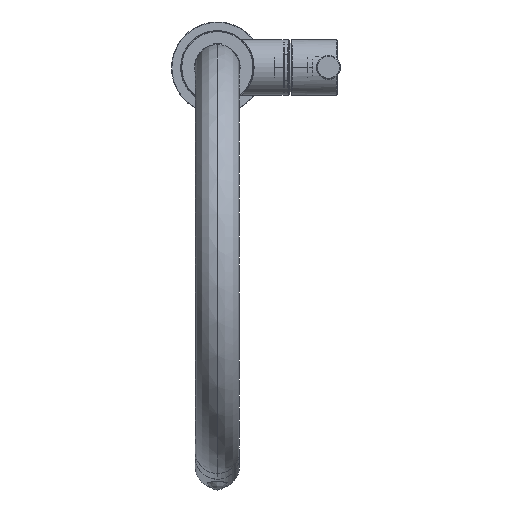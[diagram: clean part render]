
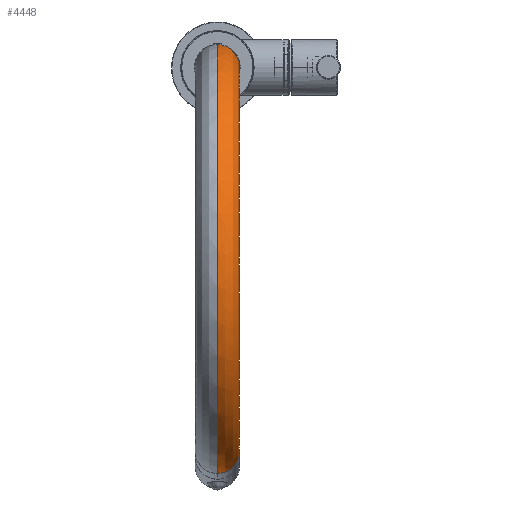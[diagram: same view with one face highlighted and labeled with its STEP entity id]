
A CAD part, top view. The second image highlights one B-rep face of the part: STEP entity #4448.
In plain terms, the highlighted free-form (B-spline) face has degree [2, 2] with [9, 9] control points.
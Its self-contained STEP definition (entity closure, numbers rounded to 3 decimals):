
#565=(
BOUNDED_SURFACE()
B_SPLINE_SURFACE(2,2,((#149331,#149332,#149333,#149334,#149335,#149336,
#149337,#149338,#149339),(#149340,#149341,#149342,#149343,#149344,#149345,
#149346,#149347,#149348),(#149349,#149350,#149351,#149352,#149353,#149354,
#149355,#149356,#149357),(#149358,#149359,#149360,#149361,#149362,#149363,
#149364,#149365,#149366),(#149367,#149368,#149369,#149370,#149371,#149372,
#149373,#149374,#149375),(#149376,#149377,#149378,#149379,#149380,#149381,
#149382,#149383,#149384),(#149385,#149386,#149387,#149388,#149389,#149390,
#149391,#149392,#149393),(#149394,#149395,#149396,#149397,#149398,#149399,
#149400,#149401,#149402),(#149403,#149404,#149405,#149406,#149407,#149408,
#149409,#149410,#149411)),.UNSPECIFIED.,.T.,.F.,.F.)
B_SPLINE_SURFACE_WITH_KNOTS((3,2,2,2,3),(3,2,2,2,3),(0.,164.934,
329.867,494.801,659.734),(0.,18.85,
37.699,56.549,75.398),.UNSPECIFIED.)
GEOMETRIC_REPRESENTATION_ITEM()
RATIONAL_B_SPLINE_SURFACE(((1.,0.707,1.,0.707,1.,
0.707,1.,0.707,1.),(0.707,0.5,0.707,
0.5,0.707,0.5,0.707,0.5,0.707),(1.,
0.707,1.,0.707,1.,0.707,1.,0.707,
1.),(0.707,0.5,0.707,0.5,0.707,0.5,
0.707,0.5,0.707),(1.,0.707,1.,0.707,
1.,0.707,1.,0.707,1.),(0.707,0.5,0.707,
0.5,0.707,0.5,0.707,0.5,0.707),(1.,
0.707,1.,0.707,1.,0.707,1.,0.707,
1.),(0.707,0.5,0.707,0.5,0.707,0.5,
0.707,0.5,0.707),(1.,0.707,1.,0.707,
1.,0.707,1.,0.707,1.)))
REPRESENTATION_ITEM('')
SURFACE()
);
#4448=ADVANCED_FACE('',(#8458),#565,.T.);
#8458=FACE_OUTER_BOUND('',#12443,.T.);
#12443=EDGE_LOOP('',(#30522,#30523,#30524,#30525));
#30522=ORIENTED_EDGE('',*,*,#40448,.F.);
#30523=ORIENTED_EDGE('',*,*,#40451,.T.);
#30524=ORIENTED_EDGE('',*,*,#40450,.T.);
#30525=ORIENTED_EDGE('',*,*,#40449,.T.);
#40448=EDGE_CURVE('',#58064,#58065,#50117,.T.);
#40449=EDGE_CURVE('',#58068,#58065,#50118,.T.);
#40450=EDGE_CURVE('',#58069,#58068,#50119,.T.);
#40451=EDGE_CURVE('',#58064,#58069,#50120,.T.);
#50117=TRIMMED_CURVE($,#52103,(#150016),(#150017),.T.,.CARTESIAN.);
#50118=TRIMMED_CURVE($,#52104,(#150019),(#150020),.T.,.CARTESIAN.);
#50119=TRIMMED_CURVE($,#52105,(#150022),(#150023),.T.,.CARTESIAN.);
#50120=TRIMMED_CURVE($,#52106,(#150025),(#150026),.T.,.CARTESIAN.);
#52103=CIRCLE('',#68471,12.);
#52104=CIRCLE('',#68472,93.);
#52105=CIRCLE('',#68473,12.);
#52106=CIRCLE('',#68474,117.);
#58064=VERTEX_POINT('',#149778);
#58065=VERTEX_POINT('',#149779);
#58068=VERTEX_POINT('',#149782);
#58069=VERTEX_POINT('',#149783);
#68471=AXIS2_PLACEMENT_3D($,#150015,#75485,#75486);
#68472=AXIS2_PLACEMENT_3D($,#150018,#75487,#75488);
#68473=AXIS2_PLACEMENT_3D($,#150021,#75489,#75490);
#68474=AXIS2_PLACEMENT_3D($,#150024,#75491,#75492);
#75485=DIRECTION('',(0.,-1.,0.));
#75486=DIRECTION('',(-1.,0.,0.));
#75487=DIRECTION('',(0.,0.,1.));
#75488=DIRECTION('',(0.996,0.087,0.));
#75489=DIRECTION('',(-0.087,0.996,0.));
#75490=DIRECTION('',(0.996,0.087,0.));
#75491=DIRECTION('',(0.,0.,-1.));
#75492=DIRECTION('',(-1.,0.,0.));
#149331=CARTESIAN_POINT('',(222.,123.,0.));
#149332=CARTESIAN_POINT('',(222.,123.,-12.));
#149333=CARTESIAN_POINT('',(210.,123.,-12.));
#149334=CARTESIAN_POINT('',(198.,123.,-12.));
#149335=CARTESIAN_POINT('',(198.,123.,0.));
#149336=CARTESIAN_POINT('',(198.,123.,12.));
#149337=CARTESIAN_POINT('',(210.,123.,12.));
#149338=CARTESIAN_POINT('',(222.,123.,12.));
#149339=CARTESIAN_POINT('',(222.,123.,0.));
#149340=CARTESIAN_POINT('',(222.,6.,0.));
#149341=CARTESIAN_POINT('',(222.,6.,-12.));
#149342=CARTESIAN_POINT('',(210.,18.,-12.));
#149343=CARTESIAN_POINT('',(198.,30.,-12.));
#149344=CARTESIAN_POINT('',(198.,30.,0.));
#149345=CARTESIAN_POINT('',(198.,30.,12.));
#149346=CARTESIAN_POINT('',(210.,18.,12.));
#149347=CARTESIAN_POINT('',(222.,6.,12.));
#149348=CARTESIAN_POINT('',(222.,6.,0.));
#149349=CARTESIAN_POINT('',(105.,6.,0.));
#149350=CARTESIAN_POINT('',(105.,6.,-12.));
#149351=CARTESIAN_POINT('',(105.,18.,-12.));
#149352=CARTESIAN_POINT('',(105.,30.,-12.));
#149353=CARTESIAN_POINT('',(105.,30.,0.));
#149354=CARTESIAN_POINT('',(105.,30.,12.));
#149355=CARTESIAN_POINT('',(105.,18.,12.));
#149356=CARTESIAN_POINT('',(105.,6.,12.));
#149357=CARTESIAN_POINT('',(105.,6.,0.));
#149358=CARTESIAN_POINT('',(-12.,6.,0.));
#149359=CARTESIAN_POINT('',(-12.,6.,-12.));
#149360=CARTESIAN_POINT('',(0.,18.,-12.));
#149361=CARTESIAN_POINT('',(12.,30.,-12.));
#149362=CARTESIAN_POINT('',(12.,30.,0.));
#149363=CARTESIAN_POINT('',(12.,30.,12.));
#149364=CARTESIAN_POINT('',(0.,18.,12.));
#149365=CARTESIAN_POINT('',(-12.,6.,12.));
#149366=CARTESIAN_POINT('',(-12.,6.,0.));
#149367=CARTESIAN_POINT('',(-12.,123.,0.));
#149368=CARTESIAN_POINT('',(-12.,123.,-12.));
#149369=CARTESIAN_POINT('',(0.,123.,-12.));
#149370=CARTESIAN_POINT('',(12.,123.,-12.));
#149371=CARTESIAN_POINT('',(12.,123.,0.));
#149372=CARTESIAN_POINT('',(12.,123.,12.));
#149373=CARTESIAN_POINT('',(0.,123.,12.));
#149374=CARTESIAN_POINT('',(-12.,123.,12.));
#149375=CARTESIAN_POINT('',(-12.,123.,0.));
#149376=CARTESIAN_POINT('',(-12.,240.,0.));
#149377=CARTESIAN_POINT('',(-12.,240.,-12.));
#149378=CARTESIAN_POINT('',(0.,228.,-12.));
#149379=CARTESIAN_POINT('',(12.,216.,-12.));
#149380=CARTESIAN_POINT('',(12.,216.,0.));
#149381=CARTESIAN_POINT('',(12.,216.,12.));
#149382=CARTESIAN_POINT('',(0.,228.,12.));
#149383=CARTESIAN_POINT('',(-12.,240.,12.));
#149384=CARTESIAN_POINT('',(-12.,240.,0.));
#149385=CARTESIAN_POINT('',(105.,240.,0.));
#149386=CARTESIAN_POINT('',(105.,240.,-12.));
#149387=CARTESIAN_POINT('',(105.,228.,-12.));
#149388=CARTESIAN_POINT('',(105.,216.,-12.));
#149389=CARTESIAN_POINT('',(105.,216.,0.));
#149390=CARTESIAN_POINT('',(105.,216.,12.));
#149391=CARTESIAN_POINT('',(105.,228.,12.));
#149392=CARTESIAN_POINT('',(105.,240.,12.));
#149393=CARTESIAN_POINT('',(105.,240.,0.));
#149394=CARTESIAN_POINT('',(222.,240.,0.));
#149395=CARTESIAN_POINT('',(222.,240.,-12.));
#149396=CARTESIAN_POINT('',(210.,228.,-12.));
#149397=CARTESIAN_POINT('',(198.,216.,-12.));
#149398=CARTESIAN_POINT('',(198.,216.,0.));
#149399=CARTESIAN_POINT('',(198.,216.,12.));
#149400=CARTESIAN_POINT('',(210.,228.,12.));
#149401=CARTESIAN_POINT('',(222.,240.,12.));
#149402=CARTESIAN_POINT('',(222.,240.,0.));
#149403=CARTESIAN_POINT('',(222.,123.,0.));
#149404=CARTESIAN_POINT('',(222.,123.,-12.));
#149405=CARTESIAN_POINT('',(210.,123.,-12.));
#149406=CARTESIAN_POINT('',(198.,123.,-12.));
#149407=CARTESIAN_POINT('',(198.,123.,0.));
#149408=CARTESIAN_POINT('',(198.,123.,12.));
#149409=CARTESIAN_POINT('',(210.,123.,12.));
#149410=CARTESIAN_POINT('',(222.,123.,12.));
#149411=CARTESIAN_POINT('',(222.,123.,0.));
#149778=CARTESIAN_POINT('',(-12.,123.,0.));
#149779=CARTESIAN_POINT('',(12.,123.,0.));
#149782=CARTESIAN_POINT('',(197.646,131.105,0.));
#149783=CARTESIAN_POINT('',(221.555,133.197,0.));
#150015=CARTESIAN_POINT('',(0.,123.,0.));
#150016=CARTESIAN_POINT('',(-12.,123.,0.));
#150017=CARTESIAN_POINT('',(12.,123.,0.));
#150018=CARTESIAN_POINT('',(105.,123.,0.));
#150019=CARTESIAN_POINT('',(197.646,131.105,0.));
#150020=CARTESIAN_POINT('',(12.,123.,0.));
#150021=CARTESIAN_POINT('',(209.6,132.151,0.));
#150022=CARTESIAN_POINT('',(221.555,133.197,0.));
#150023=CARTESIAN_POINT('',(197.646,131.105,0.));
#150024=CARTESIAN_POINT('',(105.,123.,0.));
#150025=CARTESIAN_POINT('',(-12.,123.,0.));
#150026=CARTESIAN_POINT('',(221.555,133.197,0.));
